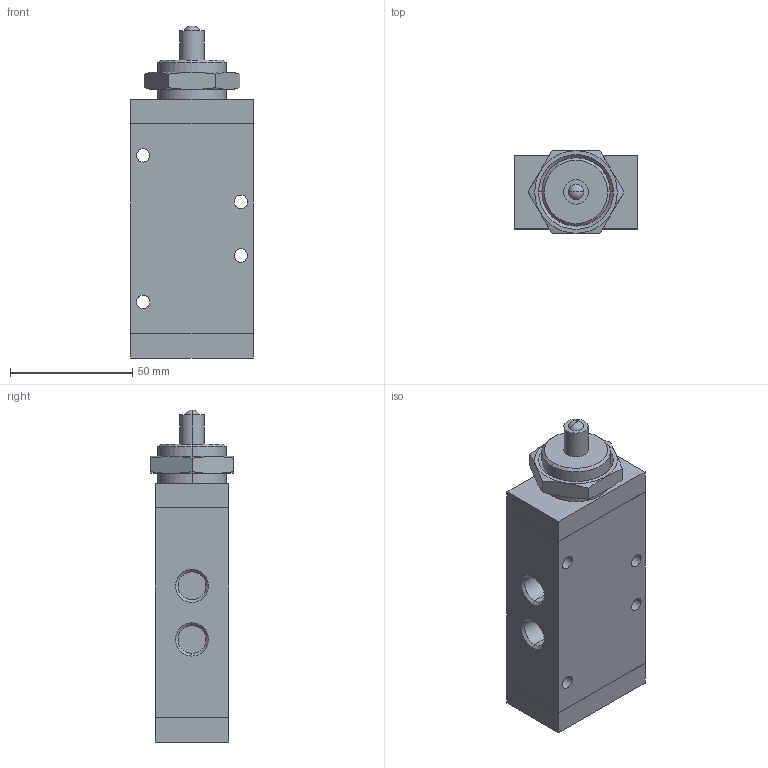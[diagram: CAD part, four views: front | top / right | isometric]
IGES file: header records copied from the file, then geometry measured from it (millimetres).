
Global section: file name: No Iges File Name specified; native system: AutoDesk Inventor R11.0; preprocessor: AutoDesk Inventor Iges Exporter R11.0; author: No Author specified; organization: No Organization specified; date: 20061219.113627; units: millimetre
Bounding box: 50 x 34 x 136 mm (x, y, z)
Volume: 163772.6 mm3; surface area: 27657.8 mm2
Topology: 2 solids, 2 shells, 77 faces, 176 edges, 111 vertices
Faces by surface type: bspline 29, plane 26, revolution 10, cone 6, cylinder 4, sphere 2
